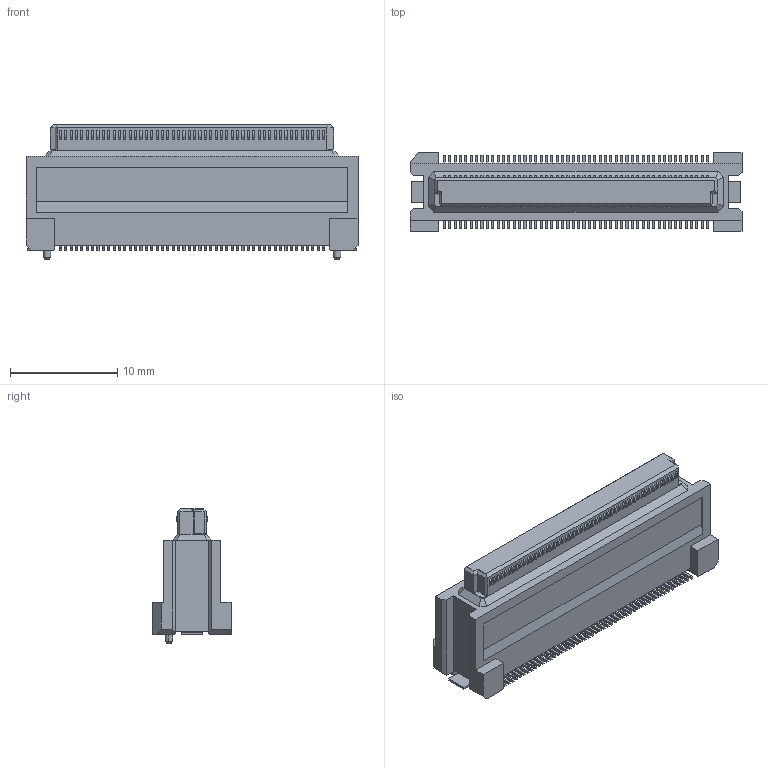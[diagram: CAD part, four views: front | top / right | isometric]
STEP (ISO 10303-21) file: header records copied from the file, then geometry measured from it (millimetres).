
FILE_DESCRIPTION(('Creo Elements/Direct Modeling STEP Export'),'2;1');
FILE_NAME('DY11-100FS-3.stp','2017-11-28T 9:24:08',(''),(''),'Creo Elements/Direct Modeling STEP processor for AP214 (Solid Model)','Creo Elements/Direct Modeling 19.0F 14-Feb-2017 (C) Parametric Technology GmbH','');
FILE_SCHEMA(('AUTOMOTIVE_DESIGN { 1 0 10303 214 1 1 1 1 }'));
Length unit declared in the file: millimetre
Products named in the file (2): DY11-100FS-3
Assembly tree (1 placements, depth 2):
  DY11-100FS-3
    DY11-100FS-3
Bounding box: 30.9 x 7.3 x 12.5 mm (x, y, z)
Volume: 1421.4 mm3; surface area: 1360 mm2
Topology: 1 solids, 1 shells, 1460 faces, 4013 edges, 2662 vertices
Faces by surface type: plane 1038, cylinder 410, bspline 8, cone 4
Entity records: 46413 total; most frequent: CARTESIAN_POINT 9242, ORIENTED_EDGE 8026, DIRECTION 7315, EDGE_CURVE 4013, VECTOR 3165, LINE 3165, VERTEX_POINT 2662, AXIS2_PLACEMENT_3D 2075
